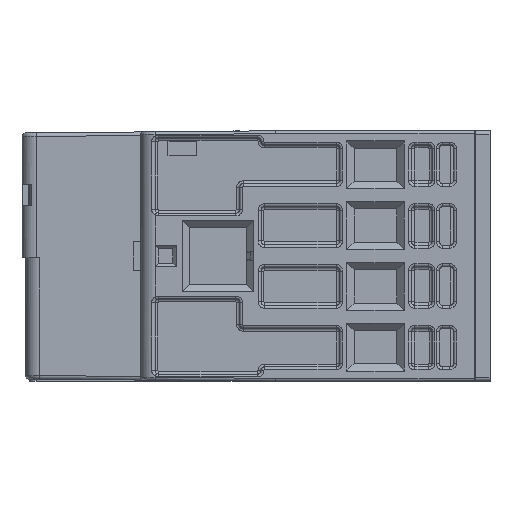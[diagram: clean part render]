
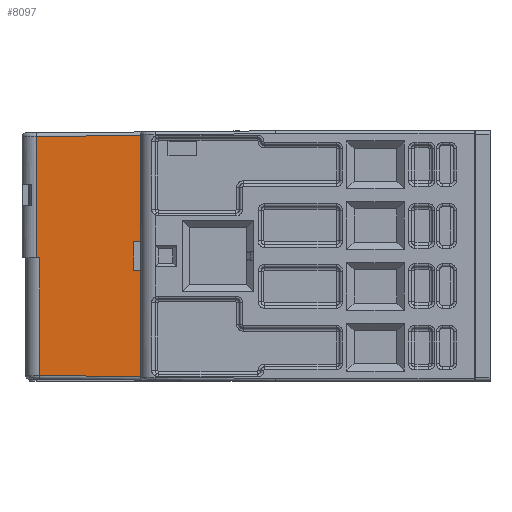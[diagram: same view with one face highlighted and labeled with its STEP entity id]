
A CAD part, left-side view. The second image highlights one B-rep face of the part: STEP entity #8097.
In plain terms, the highlighted planar face has unit normal (-1, 0.009, 0).
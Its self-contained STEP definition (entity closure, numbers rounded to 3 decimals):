
#77 = DIRECTION ( 'NONE',  ( -1., 0.009, 0. ) ) ;
#736 = EDGE_CURVE ( 'NONE', #67964, #7840, #60396, .T. ) ;
#1197 = CARTESIAN_POINT ( 'NONE',  ( -22.441, 44.8, 2. ) ) ;
#2938 = EDGE_CURVE ( 'NONE', #7840, #16477, #63210, .T. ) ;
#3318 = LINE ( 'NONE', #34965, #76839 ) ;
#3575 = EDGE_CURVE ( 'NONE', #49004, #67806, #4640, .T. ) ;
#3682 = EDGE_LOOP ( 'NONE', ( #45426, #10521, #14301, #63247, #33833, #57734, #50623, #22410, #53634, #33818 ) ) ;
#3864 = CARTESIAN_POINT ( 'NONE',  ( -22.45, 43.8, 2. ) ) ;
#3998 = VECTOR ( 'NONE', #35613, 1000. ) ;
#4047 = LINE ( 'NONE', #20989, #6821 ) ;
#4640 = LINE ( 'NONE', #49135, #54599 ) ;
#6821 = VECTOR ( 'NONE', #46045, 1000. ) ;
#7840 = VERTEX_POINT ( 'NONE', #8856 ) ;
#8097 = ADVANCED_FACE ( 'NONE', ( #10249 ), #17735, .T. ) ;
#8289 = CARTESIAN_POINT ( 'NONE',  ( -22.322, 58.422, 16.708 ) ) ;
#8856 = CARTESIAN_POINT ( 'NONE',  ( -22.45, 43.8, -2. ) ) ;
#10249 = FACE_OUTER_BOUND ( 'NONE', #3682, .T. ) ;
#10342 = EDGE_CURVE ( 'NONE', #71118, #27523, #38883, .T. ) ;
#10389 = EDGE_CURVE ( 'NONE', #27523, #46284, #22836, .T. ) ;
#10521 = ORIENTED_EDGE ( 'NONE', *, *, #20132, .T. ) ;
#11036 = VECTOR ( 'NONE', #57713, 1000. ) ;
#12718 = DIRECTION ( 'NONE',  ( -0.009, -1., 0. ) ) ;
#13440 = LINE ( 'NONE', #72886, #55849 ) ;
#14301 = ORIENTED_EDGE ( 'NONE', *, *, #10342, .T. ) ;
#14681 = LINE ( 'NONE', #61580, #59877 ) ;
#15583 = CARTESIAN_POINT ( 'NONE',  ( -22.309, 59.96, -16.695 ) ) ;
#16477 = VERTEX_POINT ( 'NONE', #46784 ) ;
#16682 = LINE ( 'NONE', #15583, #11036 ) ;
#17698 = CARTESIAN_POINT ( 'NONE',  ( -22.45, 43.8, -16.836 ) ) ;
#17735 = PLANE ( 'NONE',  #32835 ) ;
#18304 = CARTESIAN_POINT ( 'NONE',  ( -22.45, 43.8, 16.836 ) ) ;
#20132 = EDGE_CURVE ( 'NONE', #16477, #71118, #14681, .T. ) ;
#20989 = CARTESIAN_POINT ( 'NONE',  ( -22.322, 58.422, -18.612 ) ) ;
#22395 = CARTESIAN_POINT ( 'NONE',  ( -22.322, 58.422, -0.25 ) ) ;
#22410 = ORIENTED_EDGE ( 'NONE', *, *, #49716, .F. ) ;
#22836 = LINE ( 'NONE', #24267, #3998 ) ;
#24218 = EDGE_CURVE ( 'NONE', #30293, #49004, #4047, .T. ) ;
#24267 = CARTESIAN_POINT ( 'NONE',  ( -22.45, 43.8, -17.5 ) ) ;
#27523 = VERTEX_POINT ( 'NONE', #3864 ) ;
#29123 = CARTESIAN_POINT ( 'NONE',  ( -22.327, 57.917, -0.25 ) ) ;
#30293 = VERTEX_POINT ( 'NONE', #8289 ) ;
#32135 = VECTOR ( 'NONE', #46921, 1000. ) ;
#32708 = DIRECTION ( 'NONE',  ( 0., 0., 1. ) ) ;
#32835 = AXIS2_PLACEMENT_3D ( 'NONE', #60138, #77, #12718 ) ;
#32957 = EDGE_CURVE ( 'NONE', #46284, #30293, #13440, .T. ) ;
#33818 = ORIENTED_EDGE ( 'NONE', *, *, #736, .T. ) ;
#33833 = ORIENTED_EDGE ( 'NONE', *, *, #32957, .T. ) ;
#34965 = CARTESIAN_POINT ( 'NONE',  ( -22.327, 57.917, -0.25 ) ) ;
#35613 = DIRECTION ( 'NONE',  ( 0., 0., 1. ) ) ;
#36096 = VECTOR ( 'NONE', #66071, 1000. ) ;
#37257 = CARTESIAN_POINT ( 'NONE',  ( -22.327, 57.917, -16.713 ) ) ;
#38772 = VERTEX_POINT ( 'NONE', #37257 ) ;
#38883 = LINE ( 'NONE', #71631, #36096 ) ;
#39044 = EDGE_CURVE ( 'NONE', #67964, #38772, #16682, .T. ) ;
#43107 = DIRECTION ( 'NONE',  ( -0.009, -1., 0. ) ) ;
#44428 = VECTOR ( 'NONE', #32708, 1000. ) ;
#44576 = CARTESIAN_POINT ( 'NONE',  ( -22.45, 43.8, -17.5 ) ) ;
#45426 = ORIENTED_EDGE ( 'NONE', *, *, #2938, .T. ) ;
#46045 = DIRECTION ( 'NONE',  ( 0., 0., -1. ) ) ;
#46284 = VERTEX_POINT ( 'NONE', #18304 ) ;
#46784 = CARTESIAN_POINT ( 'NONE',  ( -22.441, 44.8, -2. ) ) ;
#46921 = DIRECTION ( 'NONE',  ( 0.009, 1., 0. ) ) ;
#49004 = VERTEX_POINT ( 'NONE', #22395 ) ;
#49135 = CARTESIAN_POINT ( 'NONE',  ( -22.45, 43.8, -0.25 ) ) ;
#49716 = EDGE_CURVE ( 'NONE', #38772, #67806, #3318, .T. ) ;
#50623 = ORIENTED_EDGE ( 'NONE', *, *, #3575, .T. ) ;
#53634 = ORIENTED_EDGE ( 'NONE', *, *, #39044, .F. ) ;
#54599 = VECTOR ( 'NONE', #43107, 1000. ) ;
#55849 = VECTOR ( 'NONE', #73389, 1000. ) ;
#57713 = DIRECTION ( 'NONE',  ( 0.009, 1., 0.009 ) ) ;
#57734 = ORIENTED_EDGE ( 'NONE', *, *, #24218, .T. ) ;
#58738 = CARTESIAN_POINT ( 'NONE',  ( -22.45, 43.8, -2. ) ) ;
#59877 = VECTOR ( 'NONE', #67578, 1000. ) ;
#60138 = CARTESIAN_POINT ( 'NONE',  ( -22.45, 43.8, -18.612 ) ) ;
#60396 = LINE ( 'NONE', #44576, #44428 ) ;
#61580 = CARTESIAN_POINT ( 'NONE',  ( -22.441, 44.8, -18.612 ) ) ;
#63210 = LINE ( 'NONE', #58738, #32135 ) ;
#63247 = ORIENTED_EDGE ( 'NONE', *, *, #10389, .T. ) ;
#65194 = DIRECTION ( 'NONE',  ( 0., 0., 1. ) ) ;
#66071 = DIRECTION ( 'NONE',  ( -0.009, -1., 0. ) ) ;
#67578 = DIRECTION ( 'NONE',  ( 0., 0., 1. ) ) ;
#67806 = VERTEX_POINT ( 'NONE', #29123 ) ;
#67964 = VERTEX_POINT ( 'NONE', #17698 ) ;
#71118 = VERTEX_POINT ( 'NONE', #1197 ) ;
#71631 = CARTESIAN_POINT ( 'NONE',  ( -22.45, 43.8, 2. ) ) ;
#72886 = CARTESIAN_POINT ( 'NONE',  ( -22.322, 58.422, 16.708 ) ) ;
#73389 = DIRECTION ( 'NONE',  ( 0.009, 1., -0.009 ) ) ;
#76839 = VECTOR ( 'NONE', #65194, 1000. ) ;
